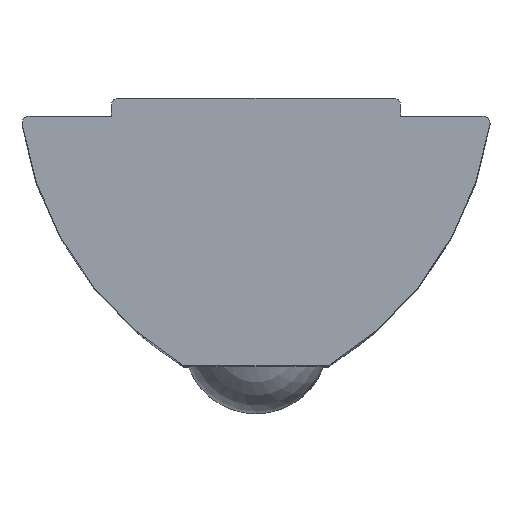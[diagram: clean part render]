
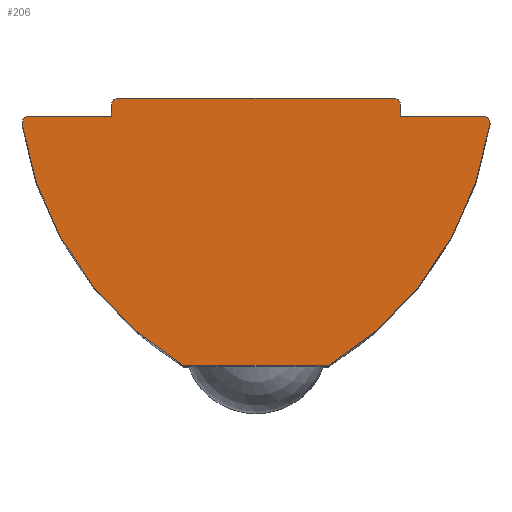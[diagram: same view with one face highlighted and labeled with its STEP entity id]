
A CAD part, top view. The second image highlights one B-rep face of the part: STEP entity #206.
In plain terms, the highlighted planar face has unit normal (0, 0, 1).
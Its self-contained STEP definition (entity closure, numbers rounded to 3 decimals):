
#35 = AXIS2_PLACEMENT_3D ( 'NONE', #234, #208, #194 ) ;
#38 = CIRCLE ( 'NONE', #659, 0.2 ) ;
#40 = CIRCLE ( 'NONE', #608, 0.2 ) ;
#42 = CIRCLE ( 'NONE', #638, 0.2 ) ;
#43 = CIRCLE ( 'NONE', #698, 0.2 ) ;
#47 = DIRECTION ( 'NONE',  ( 0., 0., 1. ) ) ;
#54 = VECTOR ( 'NONE', #149, 1000. ) ;
#58 = EDGE_CURVE ( 'NONE', #617, #272, #233, .T. ) ;
#65 = LINE ( 'NONE', #396, #54 ) ;
#67 = CARTESIAN_POINT ( 'NONE',  ( 3.8, 7.4, 11. ) ) ;
#88 = VECTOR ( 'NONE', #438, 1000. ) ;
#89 = LINE ( 'NONE', #760, #88 ) ;
#97 = CIRCLE ( 'NONE', #775, 9.5 ) ;
#120 = LINE ( 'NONE', #736, #134 ) ;
#134 = VECTOR ( 'NONE', #751, 1000. ) ;
#143 = VECTOR ( 'NONE', #387, 1000. ) ;
#147 = EDGE_CURVE ( 'NONE', #265, #625, #181, .T. ) ;
#148 = LINE ( 'NONE', #389, #143 ) ;
#149 = DIRECTION ( 'NONE',  ( 0., 1., 0. ) ) ;
#152 = CIRCLE ( 'NONE', #729, 9.5 ) ;
#158 = CARTESIAN_POINT ( 'NONE',  ( 4., 6.9, 11. ) ) ;
#161 = EDGE_CURVE ( 'NONE', #393, #778, #177, .T. ) ;
#172 = VECTOR ( 'NONE', #722, 1000. ) ;
#174 = FACE_OUTER_BOUND ( 'NONE', #551, .T. ) ;
#177 = LINE ( 'NONE', #630, #172 ) ;
#178 = VECTOR ( 'NONE', #702, 1000. ) ;
#181 = LINE ( 'NONE', #690, #178 ) ;
#194 = DIRECTION ( 'NONE',  ( 1., 0., 0. ) ) ;
#206 = ADVANCED_FACE ( 'NONE', ( #174 ), #770, .T. ) ;
#208 = DIRECTION ( 'NONE',  ( 0., 0., 1. ) ) ;
#219 = CARTESIAN_POINT ( 'NONE',  ( 2., 0., 11. ) ) ;
#221 = EDGE_CURVE ( 'NONE', #749, #393, #148, .T. ) ;
#230 = CARTESIAN_POINT ( 'NONE',  ( -6.269, 6.9, 11. ) ) ;
#233 = CIRCLE ( 'NONE', #35, 0.2 ) ;
#234 = CARTESIAN_POINT ( 'NONE',  ( -6.269, 6.7, 11. ) ) ;
#249 = EDGE_CURVE ( 'NONE', #272, #435, #152, .T. ) ;
#265 = VERTEX_POINT ( 'NONE', #67 ) ;
#272 = VERTEX_POINT ( 'NONE', #712 ) ;
#278 = CARTESIAN_POINT ( 'NONE',  ( 0., 0., 11. ) ) ;
#285 = EDGE_CURVE ( 'NONE', #435, #497, #120, .T. ) ;
#297 = VERTEX_POINT ( 'NONE', #326 ) ;
#313 = CARTESIAN_POINT ( 'NONE',  ( -4., 6.9, 11. ) ) ;
#326 = CARTESIAN_POINT ( 'NONE',  ( 4., 7.2, 11. ) ) ;
#327 = EDGE_CURVE ( 'NONE', #577, #497, #97, .T. ) ;
#336 = EDGE_CURVE ( 'NONE', #342, #407, #89, .T. ) ;
#342 = VERTEX_POINT ( 'NONE', #667 ) ;
#373 = EDGE_CURVE ( 'NONE', #407, #297, #65, .T. ) ;
#382 = DIRECTION ( 'NONE',  ( 1., 0., 0. ) ) ;
#387 = DIRECTION ( 'NONE',  ( 1., 0., 0. ) ) ;
#389 = CARTESIAN_POINT ( 'NONE',  ( 0., 6.9, 11. ) ) ;
#393 = VERTEX_POINT ( 'NONE', #313 ) ;
#396 = CARTESIAN_POINT ( 'NONE',  ( 4., 0., 11. ) ) ;
#398 = EDGE_CURVE ( 'NONE', #749, #617, #43, .T. ) ;
#402 = EDGE_CURVE ( 'NONE', #577, #342, #38, .T. ) ;
#407 = VERTEX_POINT ( 'NONE', #158 ) ;
#413 = EDGE_CURVE ( 'NONE', #297, #265, #42, .T. ) ;
#427 = DIRECTION ( 'NONE',  ( 0., 0., 1. ) ) ;
#433 = DIRECTION ( 'NONE',  ( 1., 0., 0. ) ) ;
#434 = EDGE_CURVE ( 'NONE', #625, #778, #40, .T. ) ;
#435 = VERTEX_POINT ( 'NONE', #629 ) ;
#438 = DIRECTION ( 'NONE',  ( -1., 0., 0. ) ) ;
#443 = DIRECTION ( 'NONE',  ( 0., 0., 1. ) ) ;
#445 = CARTESIAN_POINT ( 'NONE',  ( 2.921, 8.126, 11. ) ) ;
#497 = VERTEX_POINT ( 'NONE', #219 ) ;
#505 = ORIENTED_EDGE ( 'NONE', *, *, #373, .T. ) ;
#506 = ORIENTED_EDGE ( 'NONE', *, *, #413, .T. ) ;
#525 = ORIENTED_EDGE ( 'NONE', *, *, #147, .T. ) ;
#526 = CARTESIAN_POINT ( 'NONE',  ( 3.8, 7.2, 11. ) ) ;
#528 = ORIENTED_EDGE ( 'NONE', *, *, #336, .T. ) ;
#540 = ORIENTED_EDGE ( 'NONE', *, *, #221, .F. ) ;
#544 = ORIENTED_EDGE ( 'NONE', *, *, #398, .T. ) ;
#549 = ORIENTED_EDGE ( 'NONE', *, *, #58, .T. ) ;
#551 = EDGE_LOOP ( 'NONE', ( #540, #544, #549, #570, #579, #618, #591, #528, #505, #506, #525, #786, #560 ) ) ;
#560 = ORIENTED_EDGE ( 'NONE', *, *, #161, .F. ) ;
#570 = ORIENTED_EDGE ( 'NONE', *, *, #249, .T. ) ;
#577 = VERTEX_POINT ( 'NONE', #790 ) ;
#579 = ORIENTED_EDGE ( 'NONE', *, *, #285, .T. ) ;
#591 = ORIENTED_EDGE ( 'NONE', *, *, #402, .T. ) ;
#608 = AXIS2_PLACEMENT_3D ( 'NONE', #699, #633, #382 ) ;
#610 = DIRECTION ( 'NONE',  ( 0., 0., -1. ) ) ;
#611 = DIRECTION ( 'NONE',  ( 0., 0., 1. ) ) ;
#617 = VERTEX_POINT ( 'NONE', #857 ) ;
#618 = ORIENTED_EDGE ( 'NONE', *, *, #327, .F. ) ;
#619 = DIRECTION ( 'NONE',  ( 1., 0., 0. ) ) ;
#623 = CARTESIAN_POINT ( 'NONE',  ( -4., 7.2, 11. ) ) ;
#625 = VERTEX_POINT ( 'NONE', #780 ) ;
#629 = CARTESIAN_POINT ( 'NONE',  ( -2., 0., 11. ) ) ;
#630 = CARTESIAN_POINT ( 'NONE',  ( -4., 0., 11. ) ) ;
#633 = DIRECTION ( 'NONE',  ( 0., 0., 1. ) ) ;
#638 = AXIS2_PLACEMENT_3D ( 'NONE', #526, #611, #691 ) ;
#659 = AXIS2_PLACEMENT_3D ( 'NONE', #833, #674, #822 ) ;
#667 = CARTESIAN_POINT ( 'NONE',  ( 6.269, 6.9, 11. ) ) ;
#674 = DIRECTION ( 'NONE',  ( 0., 0., 1. ) ) ;
#690 = CARTESIAN_POINT ( 'NONE',  ( 0., 7.4, 11. ) ) ;
#691 = DIRECTION ( 'NONE',  ( 1., 0., 0. ) ) ;
#698 = AXIS2_PLACEMENT_3D ( 'NONE', #812, #47, #791 ) ;
#699 = CARTESIAN_POINT ( 'NONE',  ( -3.8, 7.2, 11. ) ) ;
#702 = DIRECTION ( 'NONE',  ( -1., 0., 0. ) ) ;
#712 = CARTESIAN_POINT ( 'NONE',  ( -6.467, 6.669, 11. ) ) ;
#721 = DIRECTION ( 'NONE',  ( 1., 0., 0. ) ) ;
#722 = DIRECTION ( 'NONE',  ( 0., 1., 0. ) ) ;
#729 = AXIS2_PLACEMENT_3D ( 'NONE', #445, #443, #433 ) ;
#736 = CARTESIAN_POINT ( 'NONE',  ( 0., 0., 11. ) ) ;
#749 = VERTEX_POINT ( 'NONE', #230 ) ;
#751 = DIRECTION ( 'NONE',  ( 1., 0., 0. ) ) ;
#760 = CARTESIAN_POINT ( 'NONE',  ( 0., 6.9, 11. ) ) ;
#770 = PLANE ( 'NONE',  #793 ) ;
#775 = AXIS2_PLACEMENT_3D ( 'NONE', #784, #610, #619 ) ;
#778 = VERTEX_POINT ( 'NONE', #623 ) ;
#780 = CARTESIAN_POINT ( 'NONE',  ( -3.8, 7.4, 11. ) ) ;
#784 = CARTESIAN_POINT ( 'NONE',  ( -2.921, 8.126, 11. ) ) ;
#786 = ORIENTED_EDGE ( 'NONE', *, *, #434, .T. ) ;
#790 = CARTESIAN_POINT ( 'NONE',  ( 6.467, 6.669, 11. ) ) ;
#791 = DIRECTION ( 'NONE',  ( 1., 0., 0. ) ) ;
#793 = AXIS2_PLACEMENT_3D ( 'NONE', #278, #427, #721 ) ;
#812 = CARTESIAN_POINT ( 'NONE',  ( -6.269, 6.7, 11. ) ) ;
#822 = DIRECTION ( 'NONE',  ( 1., 0., 0. ) ) ;
#833 = CARTESIAN_POINT ( 'NONE',  ( 6.269, 6.7, 11. ) ) ;
#857 = CARTESIAN_POINT ( 'NONE',  ( -6.469, 6.7, 11. ) ) ;
